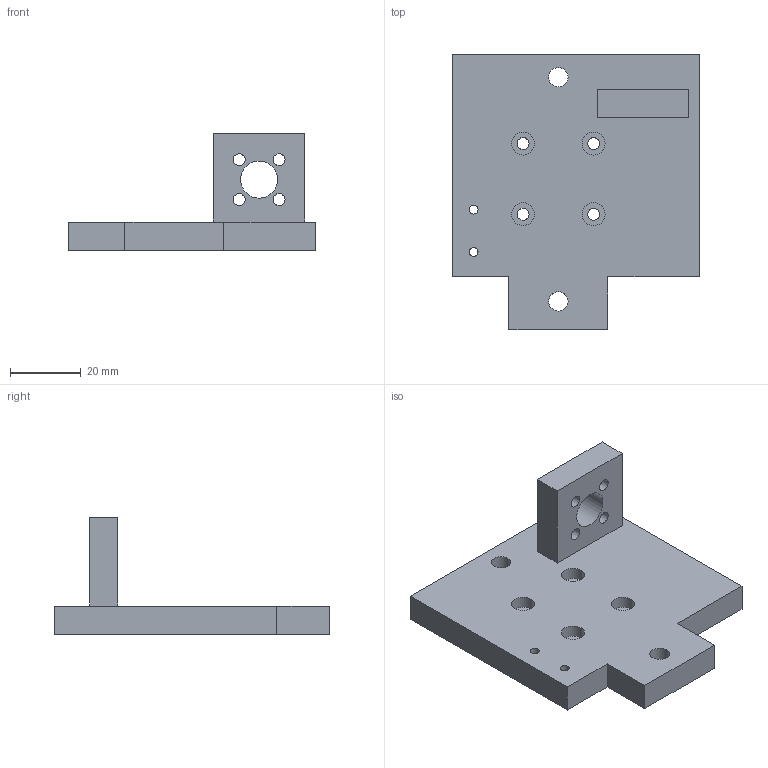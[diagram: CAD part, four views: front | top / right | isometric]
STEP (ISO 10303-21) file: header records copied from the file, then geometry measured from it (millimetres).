
FILE_DESCRIPTION(('Open CASCADE Model'),'2;1');
FILE_NAME('Open CASCADE Shape Model','2026-10-23T08:22:12',('Author'),( 'Open CASCADE'),'Open CASCADE STEP processor 7.9','Open CASCADE 7.9' ,'Unknown');
FILE_SCHEMA(('AUTOMOTIVE_DESIGN { 1 0 10303 214 1 1 1 1 }'));
Length unit declared in the file: millimetre
Products named in the file (1): Open CASCADE STEP translator 7.9 10
Bounding box: 70 x 78 x 33 mm (x, y, z)
Volume: 40935.2 mm3; surface area: 14763.8 mm2
Topology: 1 solids, 1 shells, 42 faces, 99 edges, 66 vertices
Faces by surface type: plane 23, cylinder 19
Full cylindrical faces by diameter (mm): 2.5 x2, 3.4 x8, 5.5 x2, 6.5 x4, 10 x2, 10.5 x1
Entity records: 2570 total; most frequent: DIRECTION 421, CARTESIAN_POINT 406, LINE 221, VECTOR 221, ORIENTED_EDGE 198, PCURVE 198, DEFINITIONAL_REPRESENTATION 198, EDGE_CURVE 99
